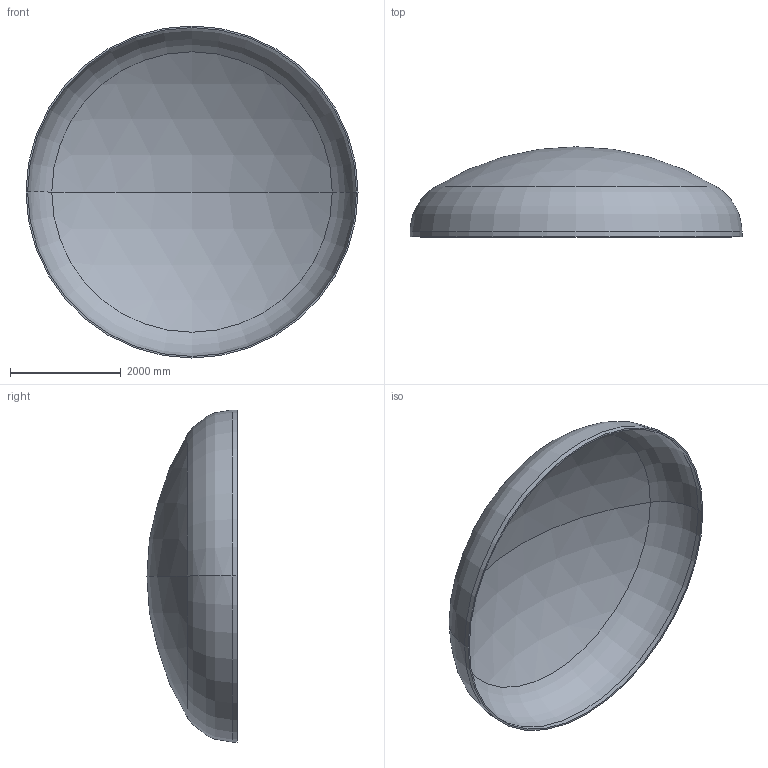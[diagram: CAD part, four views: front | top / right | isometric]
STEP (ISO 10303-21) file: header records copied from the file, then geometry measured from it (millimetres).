
FILE_DESCRIPTION (( 'STEP AP203' ), '1' );
FILE_NAME ('DIN 28013 Korbbogenform_-_Boden DIN 28013 - 6000 x 90 - I - s=29.step', '2016-07-04T10:36:26', ( '' ), ( '' ), 'SwSTEP 2.0', 'SolidWorks 2013', '' );
FILE_SCHEMA (( 'CONFIG_CONTROL_DESIGN' ));
Length unit declared in the file: millimetre
Products named in the file (1): DIN 28013 Korbbogenform_-_Boden DIN 28013 - 6000 x 90 - I - s=29
Bounding box: 6000 x 1628.18 x 6000 mm (x, y, z)
Volume: 1177633591.6 mm3; surface area: 81761834 mm2
Topology: 1 solids, 1 shells, 13 faces, 24 edges, 14 vertices
Faces by surface type: torus 4, cylinder 4, sphere 4, plane 1
Entity records: 407 total; most frequent: DIRECTION 72, CARTESIAN_POINT 52, ORIENTED_EDGE 48, AXIS2_PLACEMENT_3D 34, EDGE_CURVE 24, CIRCLE 20, VERTEX_POINT 14, EDGE_LOOP 14
